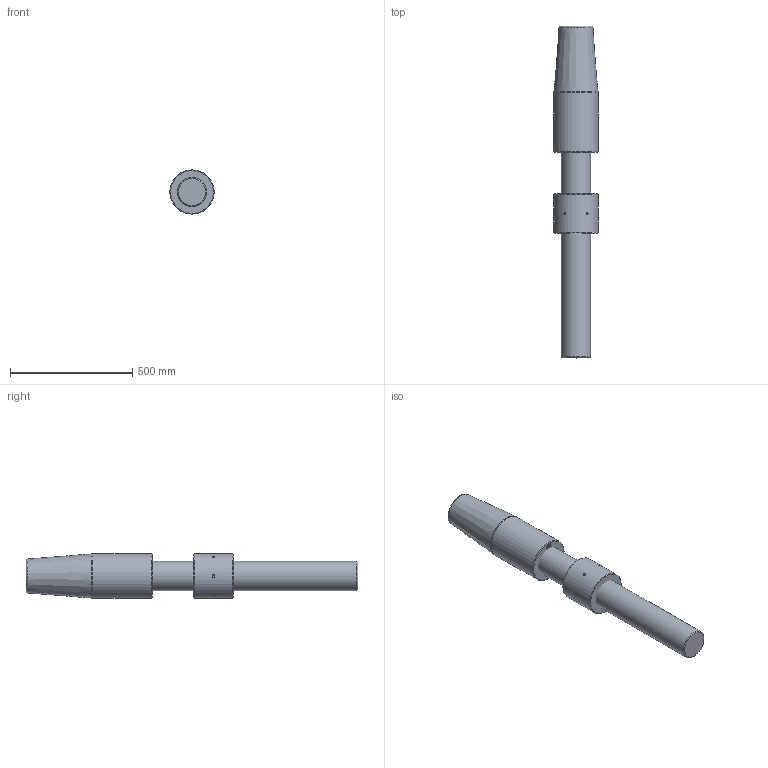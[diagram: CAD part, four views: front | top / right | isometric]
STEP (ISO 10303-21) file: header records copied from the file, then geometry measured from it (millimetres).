
FILE_DESCRIPTION(/* description */ (''),/* implementation_level */ '2;1');
FILE_NAME(/* name */ 'C:\Users\ranca\Desktop\CYM\ARRANGEMENT\CYM060 52 061 0.stp',/* time_stamp */ '2021-04-22T21:31:11+02:00',/* author */ ('ranca'),/* organization */ (''),/* preprocessor_version */ 'ST-DEVELOPER v16.13',/* originating_system */ 'Autodesk Inventor 2018',/* authorisation */ '');
FILE_SCHEMA (('AUTOMOTIVE_DESIGN { 1 0 10303 214 3 1 1 }'));
Length unit declared in the file: millimetre
Products named in the file (4): CYM060-52-061-0; CYM012-52-061-0_ROD; CYC060 52 065 0_CYL SOK_RH; CYM060-41-051-0
Assembly tree (3 placements, depth 2):
  CYM060-52-061-0
    CYM012-52-061-0_ROD
    CYC060 52 065 0_CYL SOK_RH
    CYM060-41-051-0
Bounding box: 180 x 1355 x 180 mm (x, y, z)
Volume: 26991547.5 mm3; surface area: 852575 mm2
Topology: 3 solids, 3 shells, 523 faces, 1399 edges, 930 vertices
Faces by surface type: bspline 305, plane 196, cone 11, cylinder 9, torus 2
Full cylindrical faces by diameter (mm): 10 x6, 120 x1, 180 x2
Entity records: 17974 total; most frequent: CARTESIAN_POINT 7014, ORIENTED_EDGE 2740, EDGE_CURVE 1370, DIRECTION 1221, VERTEX_POINT 924, LINE 727, VECTOR 727, B_SPLINE_CURVE_WITH_KNOTS 620
